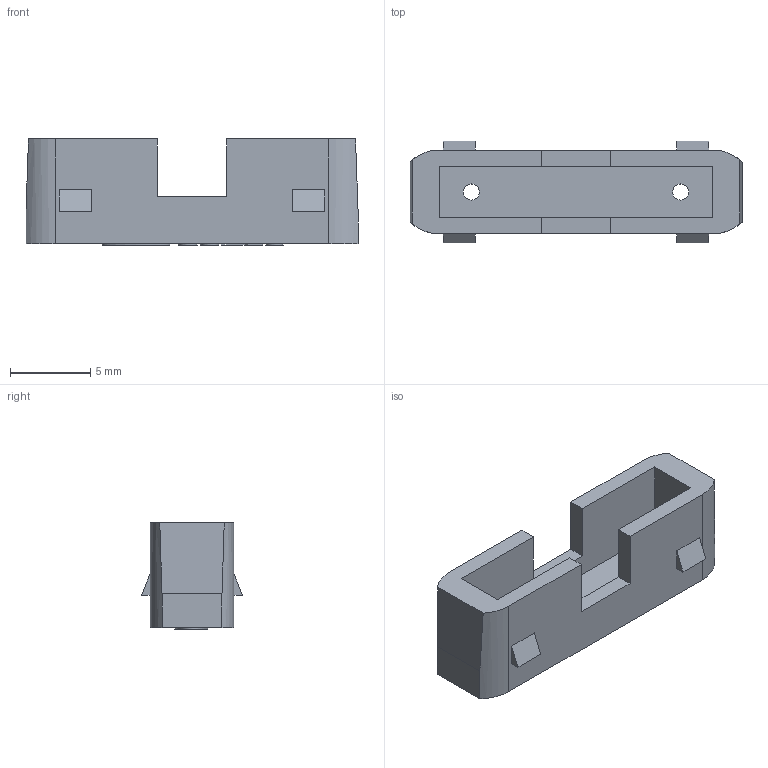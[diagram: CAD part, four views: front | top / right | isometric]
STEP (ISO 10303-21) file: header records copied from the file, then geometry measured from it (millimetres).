
FILE_DESCRIPTION((' '),'1');
FILE_NAME('C:\Programme\CoreTechnologie\in\00X-Z0E-05.stp','2003-10-27 T',(' '),(' '),'STEP Interface v1717986918.1073636966 by CT CoreTechnologie','3D Evolution v0.1072693248 by CT CoreTechnologie',' ');
FILE_SCHEMA(('CONFIG_CONTROL_DESIGN'));
Length unit declared in the file: millimetre
Products named in the file (1): 00X-Z0E-05
Bounding box: 20.63 x 6.3 x 6.6 mm (x, y, z)
Volume: 382.2 mm3; surface area: 707.4 mm2
Topology: 1 solids, 1 shells, 151 faces, 384 edges, 256 vertices
Faces by surface type: plane 96, cylinder 49, bspline 6
Entity records: 5528 total; most frequent: CARTESIAN_POINT 1370, ORIENTED_EDGE 768, DIRECTION 766, EDGE_CURVE 384, VECTOR 270, LINE 270, VERTEX_POINT 256, AXIS2_PLACEMENT_3D 248
